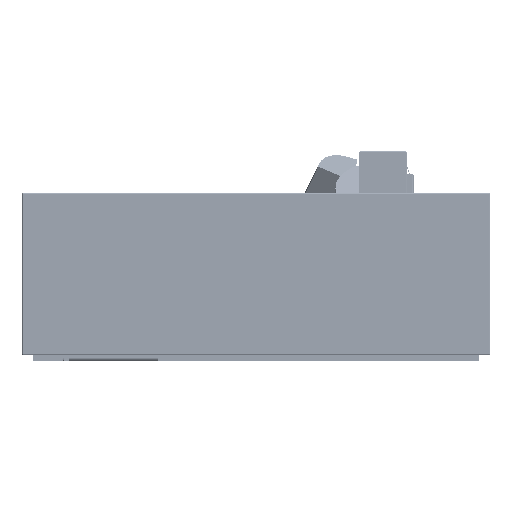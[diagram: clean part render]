
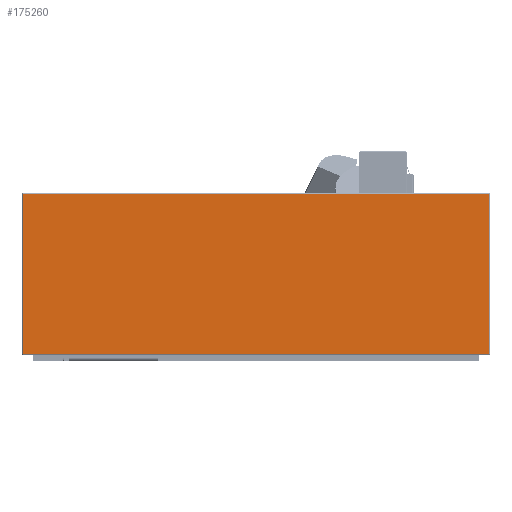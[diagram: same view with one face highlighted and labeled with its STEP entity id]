
A CAD part, left-side view. The second image highlights one B-rep face of the part: STEP entity #175260.
In plain terms, the highlighted planar face has unit normal (-1, 0, 0) as drawn and (1, 0, 0) by its records, which use the part's own axes.
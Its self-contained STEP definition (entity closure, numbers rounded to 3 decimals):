
#7738 = CARTESIAN_POINT ( 'NONE',  ( 1494.962, 549.685, 1196.831 ) ) ;
#18549 = CARTESIAN_POINT ( 'NONE',  ( 1494.962, 1172.685, 1089.831 ) ) ;
#28263 = CARTESIAN_POINT ( 'NONE',  ( 1494.962, 547.685, 1196.831 ) ) ;
#43367 = DIRECTION ( 'NONE',  ( 0., 0., -1. ) ) ;
#48164 = FACE_OUTER_BOUND ( 'NONE', #164896, .T. ) ;
#52608 = VERTEX_POINT ( 'NONE', #200511 ) ;
#60601 = VERTEX_POINT ( 'NONE', #363211 ) ;
#61702 = DIRECTION ( 'NONE',  ( 0., 1., 0. ) ) ;
#63694 = DIRECTION ( 'NONE',  ( 0., -1., 0. ) ) ;
#68590 = EDGE_CURVE ( 'NONE', #206895, #293748, #140892, .T. ) ;
#69395 = ORIENTED_EDGE ( 'NONE', *, *, #438160, .T. ) ;
#103267 = CARTESIAN_POINT ( 'NONE',  ( 1494.962, 549.685, 1089.831 ) ) ;
#117666 = EDGE_CURVE ( 'NONE', #52608, #60601, #322268, .T. ) ;
#140892 = LINE ( 'NONE', #103267, #429988 ) ;
#146323 = VECTOR ( 'NONE', #291237, 1000. ) ;
#148337 = ORIENTED_EDGE ( 'NONE', *, *, #117666, .T. ) ;
#163460 = LINE ( 'NONE', #28263, #311484 ) ;
#164896 = EDGE_LOOP ( 'NONE', ( #69395, #266849, #314981, #148337 ) ) ;
#175260 = ADVANCED_FACE ( 'NONE', ( #48164 ), #254287, .T. ) ;
#183341 = DIRECTION ( 'NONE',  ( 1., 0., 0. ) ) ;
#200511 = CARTESIAN_POINT ( 'NONE',  ( 1494.962, 1172.685, 982.831 ) ) ;
#206895 = VERTEX_POINT ( 'NONE', #7738 ) ;
#210937 = AXIS2_PLACEMENT_3D ( 'NONE', #358490, #183341, #221067 ) ;
#219954 = VECTOR ( 'NONE', #61702, 1000. ) ;
#221067 = DIRECTION ( 'NONE',  ( 0., 0., 1. ) ) ;
#228057 = CARTESIAN_POINT ( 'NONE',  ( 1494.962, 861.185, 982.831 ) ) ;
#254287 = PLANE ( 'NONE',  #210937 ) ;
#266849 = ORIENTED_EDGE ( 'NONE', *, *, #68590, .T. ) ;
#291237 = DIRECTION ( 'NONE',  ( 0., 0., 1. ) ) ;
#293748 = VERTEX_POINT ( 'NONE', #326372 ) ;
#311484 = VECTOR ( 'NONE', #63694, 1000. ) ;
#314981 = ORIENTED_EDGE ( 'NONE', *, *, #315035, .T. ) ;
#315035 = EDGE_CURVE ( 'NONE', #293748, #52608, #336568, .T. ) ;
#322268 = LINE ( 'NONE', #18549, #146323 ) ;
#326372 = CARTESIAN_POINT ( 'NONE',  ( 1494.962, 549.685, 982.831 ) ) ;
#336568 = LINE ( 'NONE', #228057, #219954 ) ;
#358490 = CARTESIAN_POINT ( 'NONE',  ( 1494.962, 861.185, 1089.831 ) ) ;
#363211 = CARTESIAN_POINT ( 'NONE',  ( 1494.962, 1172.685, 1196.831 ) ) ;
#429988 = VECTOR ( 'NONE', #43367, 1000. ) ;
#438160 = EDGE_CURVE ( 'NONE', #60601, #206895, #163460, .T. ) ;
